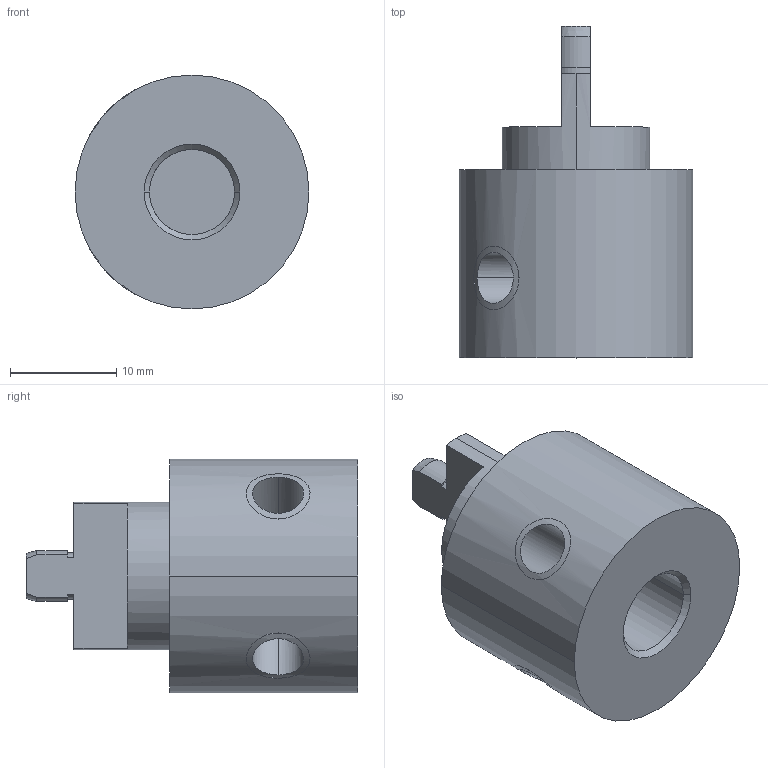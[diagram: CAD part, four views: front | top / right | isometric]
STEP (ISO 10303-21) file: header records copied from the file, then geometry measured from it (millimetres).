
FILE_DESCRIPTION((''),'2;1');
FILE_NAME('DB_20920','2015-04-30T',('DEX218155'),(''),'PRO/ENGINEER BY PARAMETRIC TECHNOLOGY CORPORATION, 2015030','PRO/ENGINEER BY PARAMETRIC TECHNOLOGY CORPORATION, 2015030','');
FILE_SCHEMA(('CONFIG_CONTROL_DESIGN'));
Length unit declared in the file: millimetre
Products named in the file (1): DB_20920
Bounding box: 22 x 31.2 x 22 mm (x, y, z)
Volume: 6510.1 mm3; surface area: 3202.9 mm2
Topology: 1 solids, 3 shells, 34 faces, 88 edges, 58 vertices
Faces by surface type: cylinder 18, plane 12, cone 4
Entity records: 1349 total; most frequent: CARTESIAN_POINT 477, ORIENTED_EDGE 168, DIRECTION 166, EDGE_CURVE 88, AXIS2_PLACEMENT_3D 63, VERTEX_POINT 58, VECTOR 40, LINE 40
